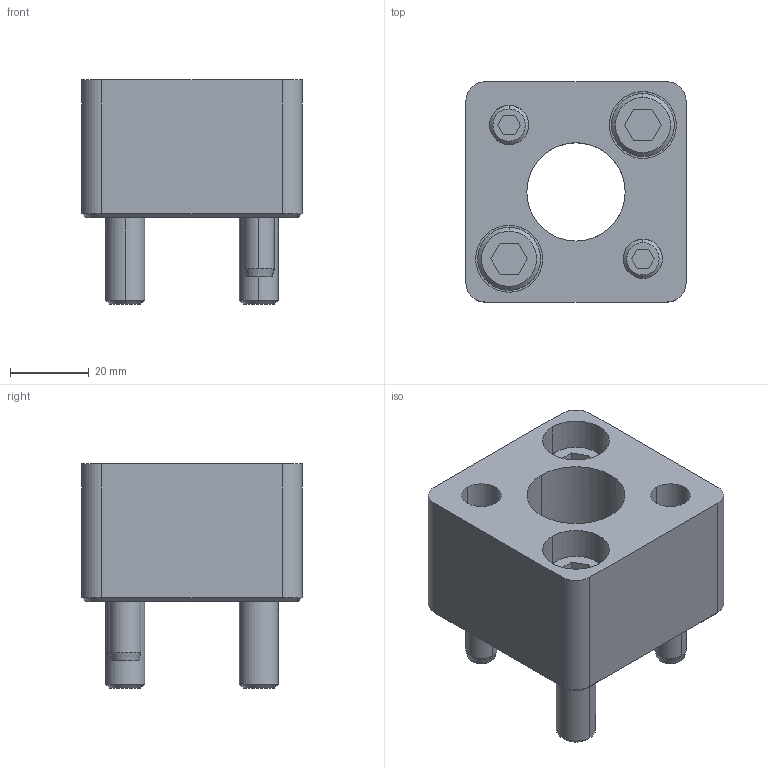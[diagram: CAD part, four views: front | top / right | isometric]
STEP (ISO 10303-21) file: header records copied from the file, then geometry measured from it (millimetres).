
FILE_DESCRIPTION(/* description */ (''),/* implementation_level */ '2;1');
FILE_NAME(/* name */ '3d_hasfr25_04026_r00.stp',/* time_stamp */ '2011-01-10T14:14:55+09:00',/* author */ ('MISUMI'),/* organization */ (''),/* preprocessor_version */ 'ST-DEVELOPER v11',/* originating_system */ 'UGS - NX 5.0',/* authorisation */ '');
FILE_SCHEMA (('CONFIG_CONTROL_DESIGN'));
Length unit declared in the file: millimetre
Products named in the file (1): 3d_hasfr25_04026_r00
Bounding box: 56 x 56 x 57 mm (x, y, z)
Volume: 87365.7 mm3; surface area: 27529.5 mm2
Topology: 7 solids, 7 shells, 147 faces, 326 edges, 207 vertices
Faces by surface type: plane 66, cylinder 51, cone 30
Entity records: 4196 total; most frequent: DIRECTION 744, CARTESIAN_POINT 740, ORIENTED_EDGE 652, EDGE_CURVE 326, AXIS2_PLACEMENT_3D 281, VERTEX_POINT 207, LINE 182, VECTOR 182
